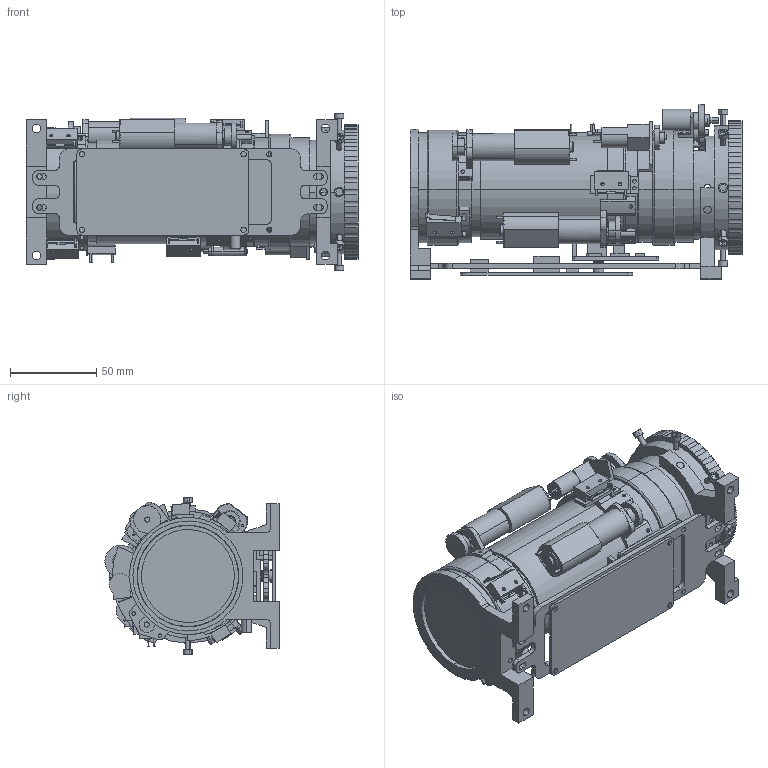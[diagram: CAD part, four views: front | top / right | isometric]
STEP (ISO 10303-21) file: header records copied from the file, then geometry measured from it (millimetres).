
FILE_DESCRIPTION (( 'STEP AP214' ), '1' );
FILE_NAME ('500mm镜头无摄像机组图.STEP', '2021-08-25T00:39:22', ( '微软用户' ), ( '微软中国' ), 'SwSTEP 2.0', 'SolidWorks 2018', '' );
FILE_SCHEMA (( 'AUTOMOTIVE_DESIGN' ));
Length unit declared in the file: millimetre
Products named in the file (34): 绿色电位器支架（300MM镜头支架）; 癹弇翐; 癹弇んㄗ曹捷1ㄘ; 癹弇ん; 300mm聚焦电机组装（2021227）; 500噩芛癹弇蟀諉啣; 56.5mm酗擄蝴萇儂盓殤; 眻霜萇儂ㄗз遙薦嫖えㄘ; 300mm变倍电机组装（2021227）; 绿色5圈电位器（变倍）; 16mm窪喘; 绿色5圈电位器（聚焦）; 陔萇儂1; 300噩芛盓殤(1); 56.5mm酗曹捷萇儂盓殤; 500噩芛翋极; 覃諒萇弇ん2瘍; 覃諒萇弇ん1瘍; 500mm镜头无摄像机组图; 覃蝴癹弇ん; 覃蝴癹弇ん盓殤; 赻雄擄蝴啣; 等諷噩芛賤鎢啣; 300手持驱动板固定板33; 绿色电位器（300mm镜头）; 500mm镜头同轴压圈; 耳9肣喘耳7怢; 300噩芛ヶ盓殤B22; 耳19窪喘; 眻霜萇儂ㄗ綴覃蝴ㄘ; 耳19窪喘菜翐; 覃肮粣隊; 绿色5圈电位器; 500噩芛覃肮粣璃
Assembly tree (46 placements, depth 3):
  500mm镜头无摄像机组图
    500噩芛翋极
    300噩芛盓殤(1)
    绿色5圈电位器（聚焦）
    绿色5圈电位器（变倍）
    眻霜萇儂ㄗз遙薦嫖えㄘ
    500噩芛癹弇蟀諉啣  x2
    癹弇ん
    癹弇翐  x2
    500噩芛覃肮粣璃
    覃肮粣隊  x8
    眻霜萇儂ㄗ綴覃蝴ㄘ
    300噩芛ヶ盓殤B22
    500mm镜头同轴压圈
    300手持驱动板固定板33
    等諷噩芛賤鎢啣
    赻雄擄蝴啣
    覃諒萇弇ん1瘍
      覃蝴癹弇ん盓殤
      覃蝴癹弇ん
    覃諒萇弇ん2瘍
      覃蝴癹弇ん盓殤
      覃蝴癹弇ん
    300mm变倍电机组装（2021227）
      56.5mm酗曹捷萇儂盓殤
      陔萇儂1
      16mm窪喘
    300mm聚焦电机组装（2021227）
      56.5mm酗擄蝴萇儂盓殤
      陔萇儂1
      16mm窪喘
    癹弇んㄗ曹捷1ㄘ
    绿色电位器（300mm镜头）
      绿色电位器支架（300MM镜头支架）
      绿色5圈电位器
      耳19窪喘菜翐
      耳19窪喘
      耳9肣喘耳7怢
Bounding box: 193 x 101.27 x 91 mm (x, y, z)
Volume: 652799.8 mm3; surface area: 145511.2 mm2
Topology: 41 solids, 46 shells, 1444 faces, 3663 edges, 2386 vertices
Faces by surface type: cylinder 733, plane 657, bspline 24, torus 22, cone 8
Entity records: 50122 total; most frequent: CARTESIAN_POINT 18860, DIRECTION 6342, ORIENTED_EDGE 6186, EDGE_CURVE 3093, AXIS2_PLACEMENT_3D 2384, VERTEX_POINT 2008, LINE 1574, VECTOR 1574
